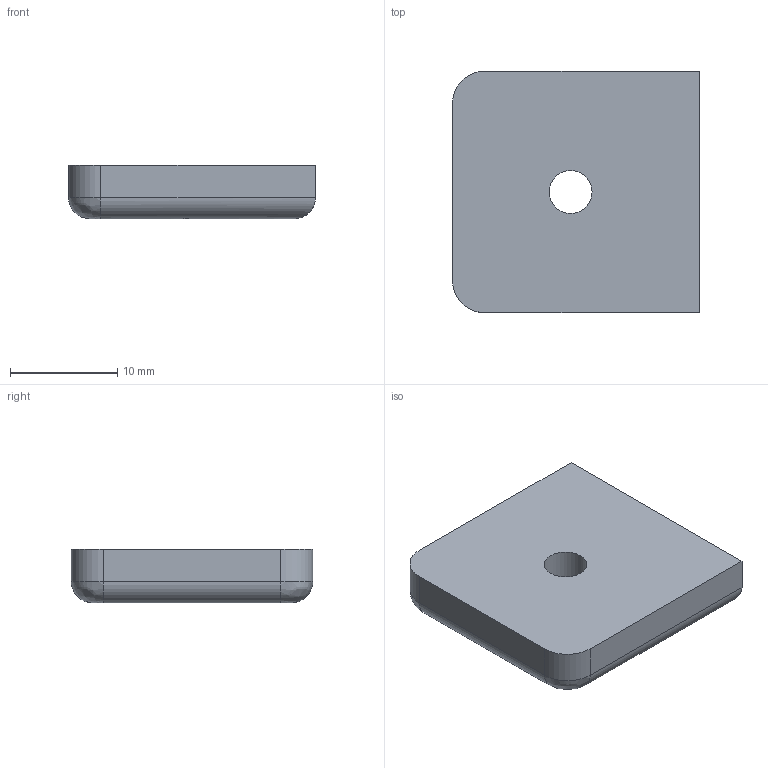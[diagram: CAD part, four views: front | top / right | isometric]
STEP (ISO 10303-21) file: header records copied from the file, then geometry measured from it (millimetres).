
FILE_DESCRIPTION(/* description */ (''),/* implementation_level */ '2;1');
FILE_NAME(/* name */ 'C:/Users/Owner/Desktop/K-CAD Songbird PM4 Centerfire/STEP/Centerfire Frames/Songbird PM4C Recoil Pad.step',/* time_stamp */ '2020-12-06T20:29:59-05:00',/* author */ (''),/* organization */ (''),/* preprocessor_version */ 'ST-DEVELOPER v18.1',/* originating_system */ 'Autodesk Translation Framework v9.3.0.1241',/* authorisation */ '');
FILE_SCHEMA (('AUTOMOTIVE_DESIGN { 1 0 10303 214 3 1 1 }'));
Length unit declared in the file: millimetre
Products named in the file (2): Songbird PM4C RP Frame UNDER 51 Cal ONLY; Rubber Recoil pad
Assembly tree (1 placements, depth 2):
  Songbird PM4C RP Frame UNDER 51 Cal ONLY
    Rubber Recoil pad
Bounding box: 23 x 22.5 x 5 mm (x, y, z)
Volume: 2297.3 mm3; surface area: 1530.5 mm2
Topology: 1 solids, 1 shells, 43 faces, 111 edges, 70 vertices
Faces by surface type: cylinder 17, plane 15, bspline 11
Full cylindrical faces by diameter (mm): 4 x3
Entity records: 1630 total; most frequent: CARTESIAN_POINT 553, DIRECTION 220, ORIENTED_EDGE 218, EDGE_CURVE 109, AXIS2_PLACEMENT_3D 94, VERTEX_POINT 70, CIRCLE 57, EDGE_LOOP 47
